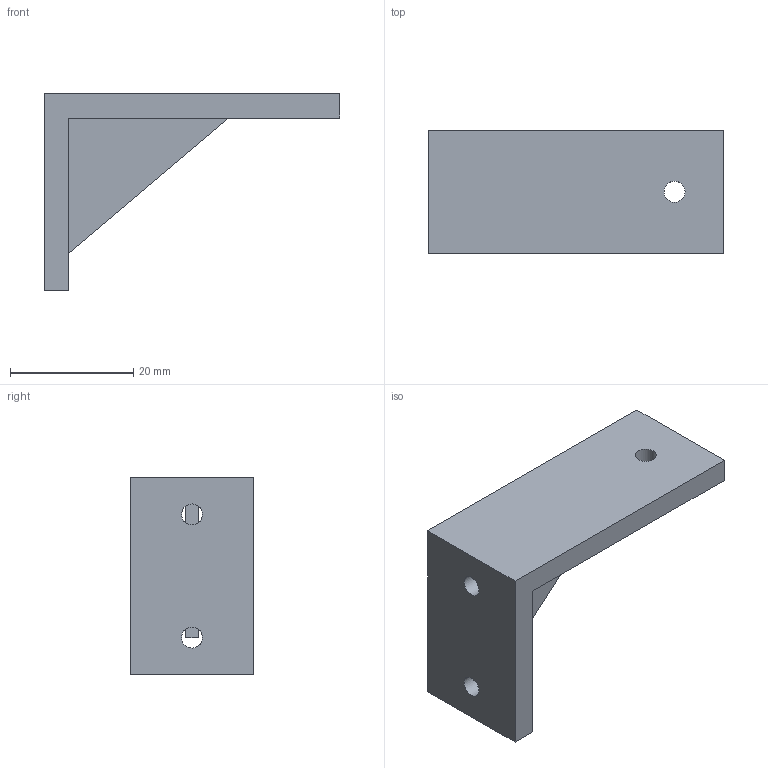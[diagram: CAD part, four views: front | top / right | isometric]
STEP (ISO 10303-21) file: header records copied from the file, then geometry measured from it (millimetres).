
FILE_DESCRIPTION(('Open CASCADE Model'),'2;1');
FILE_NAME('Open CASCADE Shape Model','2026-10-18T06:41:05',('Author'),( 'Open CASCADE'),'Open CASCADE STEP processor 7.9','Open CASCADE 7.9' ,'Unknown');
FILE_SCHEMA(('AUTOMOTIVE_DESIGN { 1 0 10303 214 1 1 1 1 }'));
Length unit declared in the file: millimetre
Products named in the file (1): Open CASCADE STEP translator 7.9 9
Bounding box: 48 x 20 x 32 mm (x, y, z)
Volume: 6543 mm3; surface area: 4445 mm2
Topology: 1 solids, 1 shells, 16 faces, 48 edges, 30 vertices
Faces by surface type: plane 13, cylinder 3
Full cylindrical faces by diameter (mm): 3.4 x3
Entity records: 1218 total; most frequent: CARTESIAN_POINT 267, DIRECTION 174, LINE 116, VECTOR 116, ORIENTED_EDGE 96, PCURVE 96, DEFINITIONAL_REPRESENTATION 96, EDGE_CURVE 48
